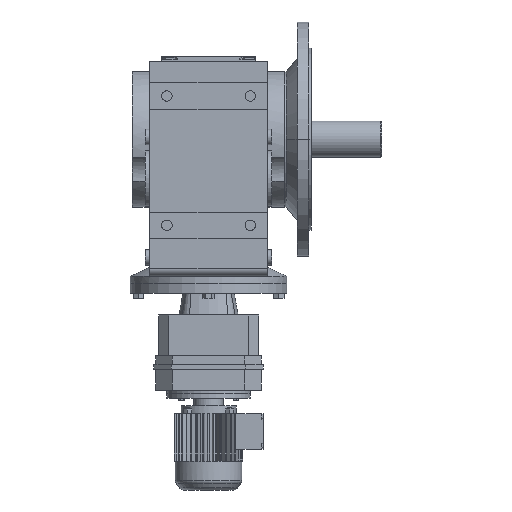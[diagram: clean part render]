
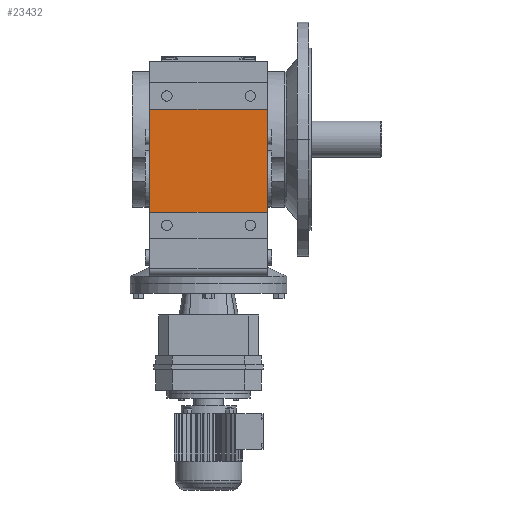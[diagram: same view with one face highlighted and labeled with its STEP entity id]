
A CAD part, front view. The second image highlights one B-rep face of the part: STEP entity #23432.
In plain terms, the highlighted planar face has unit normal (0, -1, 0).
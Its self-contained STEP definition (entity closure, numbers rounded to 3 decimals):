
#4589 = PLANE('',#4590);
#4590 = AXIS2_PLACEMENT_3D('',#4591,#4592,#4593);
#4591 = CARTESIAN_POINT('',(-113.,-239.725,-247.15));
#4592 = DIRECTION('',(-1.,0.,0.));
#4593 = DIRECTION('',(0.,0.,1.));
#4724 = PLANE('',#4725);
#4725 = AXIS2_PLACEMENT_3D('',#4726,#4727,#4728);
#4726 = CARTESIAN_POINT('',(113.,-239.725,-247.15));
#4727 = DIRECTION('',(-1.,0.,0.));
#4728 = DIRECTION('',(0.,0.,1.));
#11187 = VERTEX_POINT('',#11188);
#11188 = CARTESIAN_POINT('',(113.,-255.725,58.));
#11202 = PLANE('',#11203);
#11203 = AXIS2_PLACEMENT_3D('',#11204,#11205,#11206);
#11204 = CARTESIAN_POINT('',(-113.,-255.725,58.));
#11205 = DIRECTION('',(0.,0.,-1.));
#11206 = DIRECTION('',(-1.,0.,0.));
#11214 = EDGE_CURVE('',#11187,#11215,#11217,.T.);
#11215 = VERTEX_POINT('',#11216);
#11216 = CARTESIAN_POINT('',(113.,-255.725,-140.));
#11217 = SURFACE_CURVE('',#11218,(#11222,#11229),.PCURVE_S1.);
#11218 = LINE('',#11219,#11220);
#11219 = CARTESIAN_POINT('',(113.,-255.725,58.));
#11220 = VECTOR('',#11221,1.);
#11221 = DIRECTION('',(0.,0.,-1.));
#11222 = PCURVE('',#4724,#11223);
#11223 = DEFINITIONAL_REPRESENTATION('',(#11224),#11228);
#11224 = LINE('',#11225,#11226);
#11225 = CARTESIAN_POINT('',(305.15,-16.));
#11226 = VECTOR('',#11227,1.);
#11227 = DIRECTION('',(-1.,0.));
#11228 = ( GEOMETRIC_REPRESENTATION_CONTEXT(2) 
PARAMETRIC_REPRESENTATION_CONTEXT() REPRESENTATION_CONTEXT('2D SPACE',''
  ) );
#11229 = PCURVE('',#11230,#11235);
#11230 = PLANE('',#11231);
#11231 = AXIS2_PLACEMENT_3D('',#11232,#11233,#11234);
#11232 = CARTESIAN_POINT('',(-113.,-255.725,58.));
#11233 = DIRECTION('',(0.,-1.,0.));
#11234 = DIRECTION('',(0.,0.,-1.));
#11235 = DEFINITIONAL_REPRESENTATION('',(#11236),#11240);
#11236 = LINE('',#11237,#11238);
#11237 = CARTESIAN_POINT('',(0.,226.));
#11238 = VECTOR('',#11239,1.);
#11239 = DIRECTION('',(1.,0.));
#11240 = ( GEOMETRIC_REPRESENTATION_CONTEXT(2) 
PARAMETRIC_REPRESENTATION_CONTEXT() REPRESENTATION_CONTEXT('2D SPACE',''
  ) );
#11258 = PLANE('',#11259);
#11259 = AXIS2_PLACEMENT_3D('',#11260,#11261,#11262);
#11260 = CARTESIAN_POINT('',(-113.,-255.725,-140.));
#11261 = DIRECTION('',(0.,0.,1.));
#11262 = DIRECTION('',(0.,-1.,0.));
#12225 = VERTEX_POINT('',#12226);
#12226 = CARTESIAN_POINT('',(-113.,-255.725,-140.));
#12247 = EDGE_CURVE('',#12248,#12225,#12250,.T.);
#12248 = VERTEX_POINT('',#12249);
#12249 = CARTESIAN_POINT('',(-113.,-255.725,58.));
#12250 = SURFACE_CURVE('',#12251,(#12255,#12262),.PCURVE_S1.);
#12251 = LINE('',#12252,#12253);
#12252 = CARTESIAN_POINT('',(-113.,-255.725,58.));
#12253 = VECTOR('',#12254,1.);
#12254 = DIRECTION('',(0.,0.,-1.));
#12255 = PCURVE('',#4589,#12256);
#12256 = DEFINITIONAL_REPRESENTATION('',(#12257),#12261);
#12257 = LINE('',#12258,#12259);
#12258 = CARTESIAN_POINT('',(305.15,-16.));
#12259 = VECTOR('',#12260,1.);
#12260 = DIRECTION('',(-1.,0.));
#12261 = ( GEOMETRIC_REPRESENTATION_CONTEXT(2) 
PARAMETRIC_REPRESENTATION_CONTEXT() REPRESENTATION_CONTEXT('2D SPACE',''
  ) );
#12262 = PCURVE('',#11230,#12263);
#12263 = DEFINITIONAL_REPRESENTATION('',(#12264),#12268);
#12264 = LINE('',#12265,#12266);
#12265 = CARTESIAN_POINT('',(0.,0.));
#12266 = VECTOR('',#12267,1.);
#12267 = DIRECTION('',(1.,0.));
#12268 = ( GEOMETRIC_REPRESENTATION_CONTEXT(2) 
PARAMETRIC_REPRESENTATION_CONTEXT() REPRESENTATION_CONTEXT('2D SPACE',''
  ) );
#22915 = EDGE_CURVE('',#12248,#11187,#22916,.T.);
#22916 = SURFACE_CURVE('',#22917,(#22921,#22928),.PCURVE_S1.);
#22917 = LINE('',#22918,#22919);
#22918 = CARTESIAN_POINT('',(-113.,-255.725,58.));
#22919 = VECTOR('',#22920,1.);
#22920 = DIRECTION('',(1.,0.,0.));
#22921 = PCURVE('',#11202,#22922);
#22922 = DEFINITIONAL_REPRESENTATION('',(#22923),#22927);
#22923 = LINE('',#22924,#22925);
#22924 = CARTESIAN_POINT('',(0.,0.));
#22925 = VECTOR('',#22926,1.);
#22926 = DIRECTION('',(-1.,0.));
#22927 = ( GEOMETRIC_REPRESENTATION_CONTEXT(2) 
PARAMETRIC_REPRESENTATION_CONTEXT() REPRESENTATION_CONTEXT('2D SPACE',''
  ) );
#22928 = PCURVE('',#11230,#22929);
#22929 = DEFINITIONAL_REPRESENTATION('',(#22930),#22934);
#22930 = LINE('',#22931,#22932);
#22931 = CARTESIAN_POINT('',(0.,0.));
#22932 = VECTOR('',#22933,1.);
#22933 = DIRECTION('',(0.,1.));
#22934 = ( GEOMETRIC_REPRESENTATION_CONTEXT(2) 
PARAMETRIC_REPRESENTATION_CONTEXT() REPRESENTATION_CONTEXT('2D SPACE',''
  ) );
#23404 = EDGE_CURVE('',#12225,#11215,#23405,.T.);
#23405 = SURFACE_CURVE('',#23406,(#23410,#23417),.PCURVE_S1.);
#23406 = LINE('',#23407,#23408);
#23407 = CARTESIAN_POINT('',(-113.,-255.725,-140.));
#23408 = VECTOR('',#23409,1.);
#23409 = DIRECTION('',(1.,0.,0.));
#23410 = PCURVE('',#11258,#23411);
#23411 = DEFINITIONAL_REPRESENTATION('',(#23412),#23416);
#23412 = LINE('',#23413,#23414);
#23413 = CARTESIAN_POINT('',(0.,0.));
#23414 = VECTOR('',#23415,1.);
#23415 = DIRECTION('',(0.,1.));
#23416 = ( GEOMETRIC_REPRESENTATION_CONTEXT(2) 
PARAMETRIC_REPRESENTATION_CONTEXT() REPRESENTATION_CONTEXT('2D SPACE',''
  ) );
#23417 = PCURVE('',#11230,#23418);
#23418 = DEFINITIONAL_REPRESENTATION('',(#23419),#23423);
#23419 = LINE('',#23420,#23421);
#23420 = CARTESIAN_POINT('',(198.,0.));
#23421 = VECTOR('',#23422,1.);
#23422 = DIRECTION('',(0.,1.));
#23423 = ( GEOMETRIC_REPRESENTATION_CONTEXT(2) 
PARAMETRIC_REPRESENTATION_CONTEXT() REPRESENTATION_CONTEXT('2D SPACE',''
  ) );
#23432 = ADVANCED_FACE('',(#23433),#11230,.T.);
#23433 = FACE_BOUND('',#23434,.T.);
#23434 = EDGE_LOOP('',(#23435,#23436,#23437,#23438));
#23435 = ORIENTED_EDGE('',*,*,#23404,.T.);
#23436 = ORIENTED_EDGE('',*,*,#11214,.F.);
#23437 = ORIENTED_EDGE('',*,*,#22915,.F.);
#23438 = ORIENTED_EDGE('',*,*,#12247,.T.);
